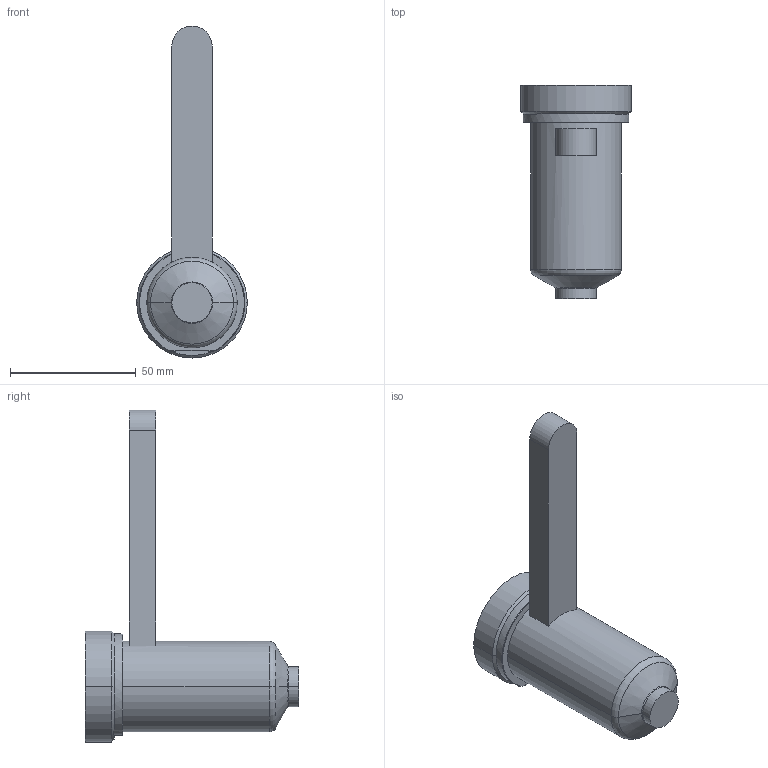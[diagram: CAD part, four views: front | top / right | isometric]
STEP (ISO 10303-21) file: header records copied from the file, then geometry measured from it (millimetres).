
FILE_DESCRIPTION((''),'2;1');
FILE_NAME('EO12_VG-FB_WR_070_COT','2024-02-19T13:39:55',('sundharh'),(''),'CREO PARAMETRIC BY PTC INC, 2023154','CREO PARAMETRIC BY PTC INC, 2023154','');
FILE_SCHEMA(('CONFIG_CONTROL_DESIGN'));
Length unit declared in the file: millimetre
Products named in the file (1): EO12_VG-FB_WR_070_COT
Bounding box: 44 x 85 x 132 mm (x, y, z)
Volume: 102498 mm3; surface area: 16880.3 mm2
Topology: 1 solids, 1 shells, 31 faces, 67 edges, 40 vertices
Faces by surface type: cylinder 11, plane 9, torus 7, cone 4
Entity records: 951 total; most frequent: CARTESIAN_POINT 218, DIRECTION 159, ORIENTED_EDGE 134, AXIS2_PLACEMENT_3D 67, EDGE_CURVE 67, VERTEX_POINT 40, CIRCLE 36, EDGE_LOOP 33
